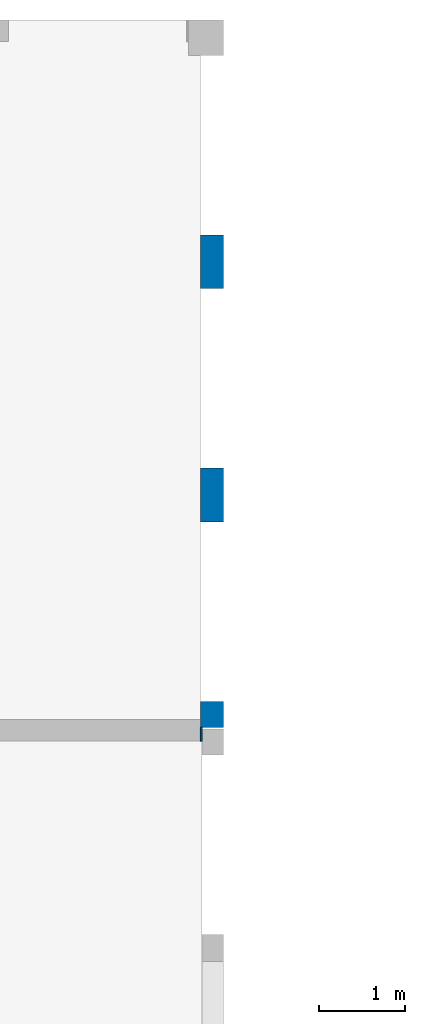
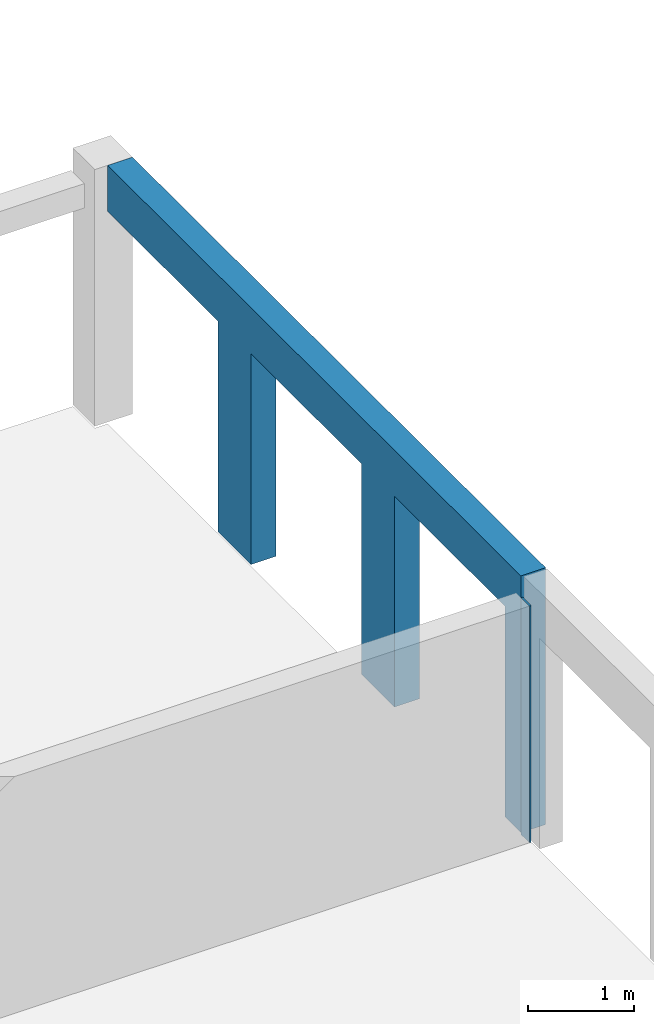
# One storey, part 5 of 12: 2 walls, 3 openings.
"""IFC2X3 building model written with IfcOpenShell, lengths in millimetres."""

from ifc_helpers import new_model, entity, si_unit, converted_unit, derived_unit, direction, frame, frame_2d, origin, place, context, subcontext, project, spatial, rectangle, extrude, material, layer, layer_set, layer_usage, type_object, element, save


model = new_model("IFC2X3")

# Units and contexts
model_context = context("Model", 3, precision=0.01, world=origin(), true_north=direction((6.12303176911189e-17, 1.0)))
body_context = subcontext(model_context, "Body", "Model", "MODEL_VIEW")
ifc_project = project(units=[si_unit("LENGTHUNIT", "METRE", prefix="MILLI"), si_unit("AREAUNIT", "SQUARE_METRE"), si_unit("VOLUMEUNIT", "CUBIC_METRE"), converted_unit("PLANEANGLEUNIT", "DEGREE", entity("IfcRatioMeasure", 0.0174532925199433), si_unit("PLANEANGLEUNIT", "RADIAN"), dimensions=[0, 0, 0, 0, 0, 0, 0]), si_unit("MASSUNIT", "GRAM", prefix="KILO"), derived_unit("MASSDENSITYUNIT", [(si_unit("MASSUNIT", "GRAM", prefix="KILO"), 1), (si_unit("LENGTHUNIT", "METRE"), -3)]), si_unit("TIMEUNIT", "SECOND"), si_unit("FREQUENCYUNIT", "HERTZ"), si_unit("THERMODYNAMICTEMPERATUREUNIT", "DEGREE_CELSIUS"), derived_unit("THERMALTRANSMITTANCEUNIT", [(si_unit("MASSUNIT", "GRAM", prefix="KILO"), 1), (si_unit("THERMODYNAMICTEMPERATUREUNIT", "KELVIN"), -1), (si_unit("TIMEUNIT", "SECOND"), -3)]), derived_unit("VOLUMETRICFLOWRATEUNIT", [(si_unit("LENGTHUNIT", "METRE"), 3), (si_unit("TIMEUNIT", "SECOND"), -1)]), si_unit("ELECTRICCURRENTUNIT", "AMPERE"), si_unit("ELECTRICVOLTAGEUNIT", "VOLT"), si_unit("POWERUNIT", "WATT"), si_unit("FORCEUNIT", "NEWTON", prefix="KILO"), si_unit("ILLUMINANCEUNIT", "LUX"), si_unit("LUMINOUSFLUXUNIT", "LUMEN"), si_unit("LUMINOUSINTENSITYUNIT", "CANDELA"), derived_unit("USERDEFINED", [(si_unit("MASSUNIT", "GRAM", prefix="KILO"), -1), (si_unit("LENGTHUNIT", "METRE"), -2), (si_unit("TIMEUNIT", "SECOND"), 3), (si_unit("LUMINOUSFLUXUNIT", "LUMEN"), 1)]), derived_unit("LINEARVELOCITYUNIT", [(si_unit("LENGTHUNIT", "METRE"), 1), (si_unit("TIMEUNIT", "SECOND"), -1)]), si_unit("PRESSUREUNIT", "PASCAL"), derived_unit("USERDEFINED", [(si_unit("LENGTHUNIT", "METRE"), -2), (si_unit("MASSUNIT", "GRAM", prefix="KILO"), 1), (si_unit("TIMEUNIT", "SECOND"), -2)])], contexts=[model_context])

# Site, building, storey
site_placement = place(None, origin())
site = spatial("IfcSite", under=ifc_project, at=site_placement, Name="Default", CompositionType="ELEMENT")
building_placement = place(site_placement, origin())
building = spatial("IfcBuilding", under=site, at=building_placement, Name="niet gebruiken", CompositionType="ELEMENT")
storey_placement = place(building_placement, frame((0.0, 0.0, 18540.0)))
storey = spatial("IfcBuildingStorey", under=building, at=storey_placement, Name="06 zesde verdieping", CompositionType="ELEMENT", Elevation=18540.0)

# Wall, openings
ifc_material_1 = material(Name="NLRS_f2_beton prefab")
ifc_layer_1 = layer(ifc_material_1, 270.0)
ifc_layer_set_1 = layer_set([ifc_layer_1], Name="Basic Wall:NLRS_21.21_WA_beton prefab d=270_gen")
ifc_layer_usage_1 = layer_usage(ifc_layer_set_1, "AXIS2", "NEGATIVE", 135.0)
wall_type_1 = type_object("IfcWallType", Name="Basic Wall:NLRS_21.21_WA_beton prefab d=270_gen", PredefinedType="STANDARD", material=ifc_layer_set_1)
wall_1_placement = place(storey_placement, frame((56665.0, 52846.0, -70.0), z_axis=(0.0, 0.0, 1.0), x_axis=(0.0, -1.0, 0.0)))
wall_1 = element("IfcWallStandardCase", 1, at=wall_1_placement, inside=storey, type_object=wall_type_1, material=ifc_layer_usage_1, Name="Basic Wall:NLRS_21.21_WA_beton prefab d=270_gen", ObjectType="Basic Wall:NLRS_21.21_WA_beton prefab d=270_gen", context=body_context, shape_type="SweptSolid", body=[
    extrude(rectangle(XDim=7780.00000000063, YDim=270.000000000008, at=frame_2d((3890.00000000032, 0.0), x_axis=(-1.0, 0.0))), origin(), (0.0, 0.0, 1.0), 2949.99999999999),
])
opening_1_placement = place(wall_1_placement, origin())
element("IfcOpeningElement", 2, at=opening_1_placement, cuts=wall_1, Name="Basic Wall:NLRS_21.21_WA_beton prefab d=270_gen", ObjectType="Opening", context=body_context, shape_type="SweptSolid", body=[
    extrude(rectangle(XDim=2420.0, YDim=2080.0, at=frame_2d((8.64019966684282e-12, 1.02318153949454e-12), x_axis=(0.0, 1.0))), frame((1040.0, -1389.0, 1210.0), z_axis=(0.0, 1.0, 0.0), x_axis=(-1.0, 0.0, 0.0)), (0.0, 0.0, 1.0), 3048.0),
])
opening_2_placement = place(wall_1_placement, origin())
element("IfcOpeningElement", 3, at=opening_2_placement, cuts=wall_1, Name="Basic Wall:NLRS_21.21_WA_beton prefab d=270_gen", ObjectType="Opening", context=body_context, shape_type="SweptSolid", body=[
    extrude(rectangle(XDim=2420.0, YDim=2080.0, at=frame_2d((0.0, 1.02318153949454e-12), x_axis=(0.0, 1.0))), frame((3740.0, -1389.0, 1210.0), z_axis=(0.0, 1.0, 0.0), x_axis=(-1.0, 0.0, 0.0)), (0.0, 0.0, 1.0), 3048.0),
])
opening_3_placement = place(wall_1_placement, origin())
element("IfcOpeningElement", 4, at=opening_3_placement, cuts=wall_1, Name="Basic Wall:NLRS_21.21_WA_beton prefab d=270_gen", ObjectType="Opening", context=body_context, shape_type="SweptSolid", body=[
    extrude(rectangle(XDim=2420.0, YDim=2080.0, at=frame_2d((0.0, 1.02318153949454e-12), x_axis=(0.0, 1.0))), frame((6440.0, -1389.0, 1210.0), z_axis=(0.0, 1.0, 0.0), x_axis=(-1.0, 0.0, 0.0)), (0.0, 0.0, 1.0), 3048.0),
])

# Wall
ifc_material_2 = material(Name="NLRS_f2_beton ihwg")
ifc_layer_2 = layer(ifc_material_2, 160.0)
ifc_layer_set_2 = layer_set([ifc_layer_2], Name="Basic Wall:NLRS_22.21_WA_beton ihwg d=160_gen")
ifc_layer_usage_2 = layer_usage(ifc_layer_set_2, "AXIS2", "NEGATIVE", 80.0)
wall_type_2 = type_object("IfcWallType", Name="Basic Wall:NLRS_22.21_WA_beton ihwg d=160_gen", PredefinedType="STANDARD", material=ifc_layer_set_2)
wall_2_placement = place(storey_placement, frame((56530.0, 44986.0, -90.0)))
element("IfcWallStandardCase", 5, at=wall_2_placement, inside=storey, type_object=wall_type_2, material=ifc_layer_usage_2, Name="Basic Wall:NLRS_22.21_WA_beton ihwg d=160_gen", ObjectType="Basic Wall:NLRS_22.21_WA_beton ihwg d=160_gen", context=body_context, shape_type="SweptSolid", body=[
    extrude(rectangle(XDim=19.9999999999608, YDim=159.999999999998, at=frame_2d((9.9999999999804, 0.0), x_axis=(-1.0, 0.0))), origin(), (0.0, 0.0, 1.0), 2719.99999999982),
])

save(model, "model.ifc")
